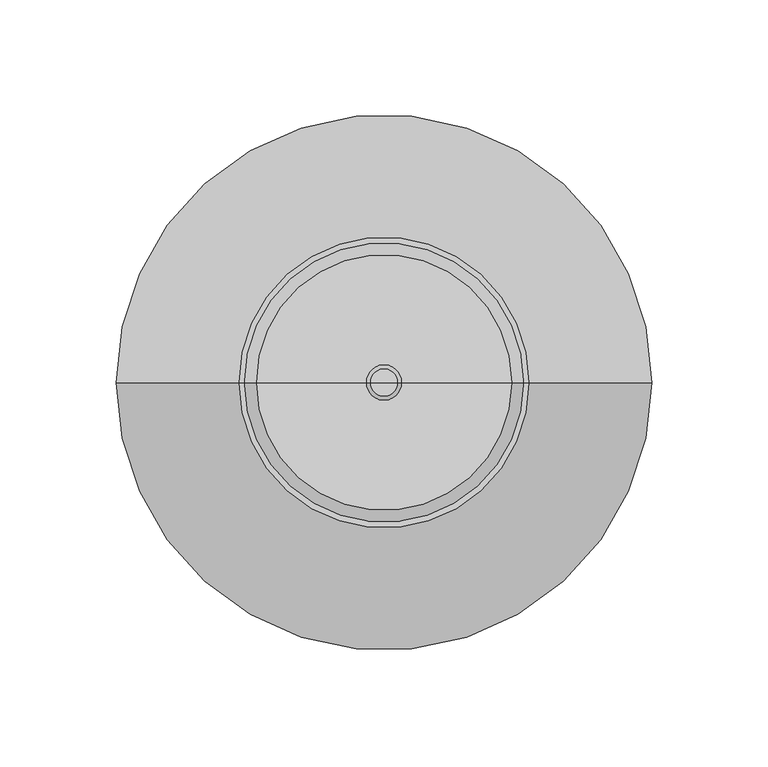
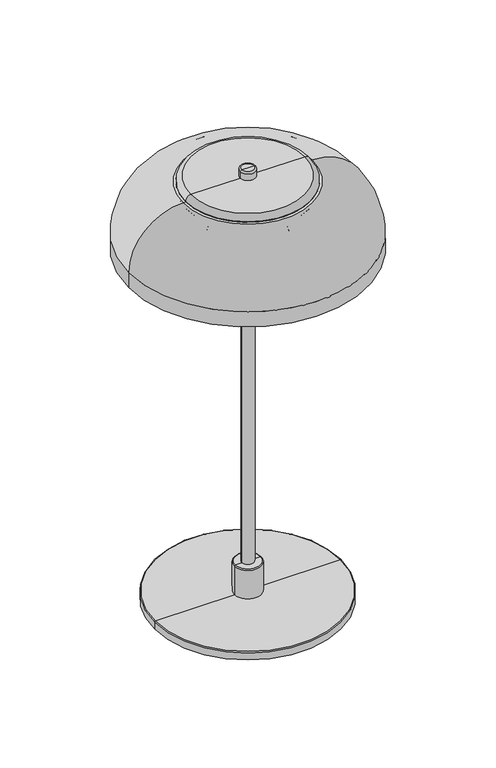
"""IFC4 building model written with IfcOpenShell, lengths in millimetres: light fixture geometry, Nuura - Blossi - Table : Nuura - Blossi - Table."""

from ifc_helpers import new_model, si_unit, point, frame, frame_2d, origin, origin_with_axes, place, context, project, spatial, polyline, circle_curve, ellipse_curve, trimmed, segment, composite_curve, outline, extrude, source, transform, mapped, element, save
from ifc_brep_helpers import plane_surface, cylinder_surface, revolved_surface, advanced_brep


def light_fixture_5867d3f8(model_context):
    return source(origin(), model_context, "Body", "SolidModel", [
        advanced_brep(
        [(-63.0, 0.0, 422.0), (63.0, 0.0, 422.0), (0.0, 0.0, 422.0), (-111.0, 0.0, 374.0), (111.0, 0.0, 374.0), (-111.0, 0.0, 358.3), (111.0, 0.0, 358.3), (-115.0, 0.0, 358.3), (115.0, 0.0, 358.3), (-115.0, 0.0, 373.5), (115.0, 0.0, 373.5), (-62.5, 0.0, 426.0), (62.5, 0.0, 426.0), (0.0, 0.0, 426.0)],
        [
            (0, 1, circle_curve(frame((0.0, 0.0, 422.0), z_axis=(0.0, 0.0, -1.0), x_axis=(1.0, 0.0, 0.0)), 63.0)),
            (1, 2),
            (2, 0),
            (1, 0, circle_curve(frame((0.0, 0.0, 422.0), z_axis=(0.0, 0.0, -1.0), x_axis=(1.0, 0.0, 0.0)), 63.0)),
            (3, 4, circle_curve(frame((0.0, 0.0, 374.0), z_axis=(0.0, 0.0, -1.0), x_axis=(1.0, 0.0, 0.0)), 111.0)),
            (4, 1, circle_curve(frame((63.0, 0.0, 374.0), z_axis=(0.0, -1.0, 0.0), x_axis=(1.0, 0.0, 0.0)), 48.0)),
            (0, 3, circle_curve(frame((-63.0, 0.0, 374.0), z_axis=(0.0, -1.0, 0.0), x_axis=(-1.0, 0.0, 0.0)), 48.0)),
            (4, 3, circle_curve(frame((0.0, 0.0, 374.0), z_axis=(0.0, 0.0, -1.0), x_axis=(1.0, 0.0, 0.0)), 111.0)),
            (5, 6, circle_curve(frame((0.0, 0.0, 358.3), z_axis=(0.0, 0.0, -1.0), x_axis=(1.0, 0.0, 0.0)), 111.0)),
            (6, 4),
            (3, 5),
            (6, 5, circle_curve(frame((0.0, 0.0, 358.3), z_axis=(0.0, 0.0, -1.0), x_axis=(1.0, 0.0, 0.0)), 111.0)),
            (7, 8, circle_curve(frame((0.0, 0.0, 358.3), z_axis=(0.0, 0.0, -1.0), x_axis=(1.0, 0.0, 0.0)), 115.0)),
            (8, 6),
            (5, 7),
            (8, 7, circle_curve(frame((0.0, 0.0, 358.3), z_axis=(0.0, 0.0, -1.0), x_axis=(1.0, 0.0, 0.0)), 115.0)),
            (9, 10, circle_curve(frame((0.0, 0.0, 373.5), z_axis=(0.0, 0.0, -1.0), x_axis=(1.0, 0.0, 0.0)), 115.0)),
            (10, 8),
            (7, 9),
            (10, 9, circle_curve(frame((0.0, 0.0, 373.5), z_axis=(0.0, 0.0, -1.0), x_axis=(1.0, 0.0, 0.0)), 115.0)),
            (11, 12, circle_curve(frame((0.0, 0.0, 426.0), z_axis=(0.0, 0.0, -1.0), x_axis=(1.0, 0.0, 0.0)), 62.5)),
            (12, 10, circle_curve(frame((62.5, 0.0, 373.5), z_axis=(0.0, 1.0, 0.0), x_axis=(1.0, 0.0, 0.0)), 52.5)),
            (9, 11, circle_curve(frame((-62.5, 0.0, 373.5), z_axis=(0.0, 1.0, 0.0), x_axis=(-1.0, 0.0, 0.0)), 52.5)),
            (12, 11, circle_curve(frame((0.0, 0.0, 426.0), z_axis=(0.0, 0.0, -1.0), x_axis=(1.0, 0.0, 0.0)), 62.5)),
            (13, 12),
            (11, 13),
        ],
        [
            plane_surface(frame((0.0, 0.0, 422.0), z_axis=(0.0, 0.0, -1.0), x_axis=(1.0, 0.0, 0.0))),
            revolved_surface(trimmed(ellipse_curve(frame((63.0, 0.0, 374.0), z_axis=(0.0, 1.0, 0.0), x_axis=(1.0, 0.0, 0.0)), 48.0, 48.0), [point((63.0, 0.0, 422.0))], [point((111.0, 0.0, 374.0))], True, "CARTESIAN"), (0.0, 0.0, 472.3834276), (0.0, 0.0, 1.0)),
            revolved_surface(polyline([(111.0, 0.0, 374.0), (111.0, 0.0, 358.3)]), (0.0, 0.0, 472.3834276), (0.0, 0.0, 1.0)),
            plane_surface(frame((0.0, 0.0, 358.3), z_axis=(0.0, 0.0, -1.0), x_axis=(1.0, 0.0, 0.0))),
            cylinder_surface(frame((0.0, 0.0, 472.3834276), z_axis=(0.0, 0.0, 1.0), x_axis=(1.0, 0.0, 0.0)), 115.0),
            revolved_surface(trimmed(ellipse_curve(frame((62.5, 0.0, 373.5), z_axis=(0.0, -1.0, 0.0), x_axis=(1.0, 0.0, 0.0)), 52.5, 52.5), [point((115.0, 0.0, 373.5))], [point((62.5, 0.0, 426.0))], True, "CARTESIAN"), (0.0, 0.0, 472.3834276), (0.0, 0.0, 1.0)),
            plane_surface(frame((0.0, 0.0, 426.0), z_axis=(0.0, 0.0, 1.0), x_axis=(1.0, 0.0, 0.0))),
        ],
        [
            (0, [[1, 2, 3]]),
            (0, [[4, -3, -2]]),
            (1, [[5, 6, -1, 7]]),
            (1, [[8, -7, -4, -6]]),
            (2, [[9, 10, -5, 11]]),
            (2, [[12, -11, -8, -10]]),
            (3, [[13, 14, -9, 15]]),
            (3, [[16, -15, -12, -14]]),
            (4, [[17, 18, -13, 19]]),
            (4, [[20, -19, -16, -18]]),
            (5, [[21, 22, -17, 23]]),
            (5, [[24, -23, -20, -22]]),
            (6, [[25, -21, 26]]),
            (6, [[-26, -24, -25]]),
        ],
    ),
        advanced_brep(
        [(-5.85, 0.0, 416.0), (5.85, 0.0, 416.0), (5.85, 0.0, 376.0), (-5.85, 0.0, 376.0), (0.0, 0.0, 416.0), (0.0, 0.0, 376.0)],
        [
            (0, 1, circle_curve(frame((0.0, 0.0, 416.0), z_axis=(0.0, 0.0, -1.0), x_axis=(1.0, 0.0, 0.0)), 5.85)),
            (1, 2),
            (2, 3, circle_curve(frame((0.0, 0.0, 376.0), z_axis=(0.0, 0.0, 1.0), x_axis=(1.0, 0.0, 0.0)), 5.85)),
            (3, 0),
            (1, 0, circle_curve(frame((0.0, 0.0, 416.0), z_axis=(0.0, 0.0, -1.0), x_axis=(1.0, 0.0, 0.0)), 5.85)),
            (3, 2, circle_curve(frame((0.0, 0.0, 376.0), z_axis=(0.0, 0.0, 1.0), x_axis=(1.0, 0.0, 0.0)), 5.85)),
            (4, 1),
            (0, 4),
            (2, 5),
            (5, 3),
        ],
        [
            cylinder_surface(frame((0.0, 0.0, -468.1232635), z_axis=(0.0, 0.0, 1.0), x_axis=(1.0, 0.0, 0.0)), 5.85),
            plane_surface(frame((0.0, 0.0, 416.0), z_axis=(0.0, 0.0, 1.0), x_axis=(1.0, 0.0, 0.0))),
            plane_surface(frame((0.0, 0.0, 376.0), z_axis=(0.0, 0.0, -1.0), x_axis=(1.0, 0.0, 0.0))),
        ],
        [
            (0, [[1, 2, 3, 4]]),
            (0, [[5, -4, 6, -2]]),
            (1, [[7, -1, 8]]),
            (1, [[-8, -5, -7]]),
            (2, [[-3, 9, 10]]),
            (2, [[-6, -10, -9]]),
        ],
    ),
        extrude(outline(composite_curve([segment(trimmed(circle_curve(frame_2d((69.9894645, 0.0)), 10.0), [point((69.9894645, 10.0))], [point((69.9894645, -10.0))], False, "CARTESIAN"), True, "CONTINUOUS"), segment(trimmed(circle_curve(frame_2d((69.9894645, 0.0)), 10.0), [point((69.9894645, -10.0))], [point((69.9894645, 10.0))], False, "CARTESIAN"), True, "CONTINUOUS")], self_intersect=False)), origin_with_axes(), (0.0, 0.0, 1.0), 2.0),
        extrude(outline(composite_curve([segment(trimmed(circle_curve(frame_2d((-34.9947323, -60.6126543)), 10.0), [point((-26.3344782, -65.6126543))], [point((-43.6549863, -55.6126543))], False, "CARTESIAN"), True, "CONTINUOUS"), segment(trimmed(circle_curve(frame_2d((-34.9947323, -60.6126543)), 10.0), [point((-43.6549863, -55.6126543))], [point((-26.3344782, -65.6126543))], False, "CARTESIAN"), True, "CONTINUOUS")], self_intersect=False)), origin_with_axes(), (0.0, 0.0, 1.0), 2.0),
        extrude(outline(composite_curve([segment(trimmed(circle_curve(frame_2d((-34.9947323, 60.6126543)), 10.0), [point((-43.6549863, 55.6126543))], [point((-26.3344782, 65.6126543))], False, "CARTESIAN"), True, "CONTINUOUS"), segment(trimmed(circle_curve(frame_2d((-34.9947323, 60.6126543)), 10.0), [point((-26.3344782, 65.6126543))], [point((-43.6549863, 55.6126543))], False, "CARTESIAN"), True, "CONTINUOUS")], self_intersect=False)), origin_with_axes(), (0.0, 0.0, 1.0), 2.0),
        advanced_brep(
        [(-90.0, 0.0, 9.0), (90.0, 0.0, 9.0), (90.0, 0.0, 2.0), (-90.0, 0.0, 2.0), (-13.0, 0.0, 10.0), (13.0, 0.0, 10.0), (89.0, 0.0, 10.0), (-89.0, 0.0, 10.0), (0.0, 0.0, 2.0), (-13.0, 0.0, 39.0), (13.0, 0.0, 39.0), (-5.85, 0.0, 40.0), (5.85, 0.0, 40.0), (12.0, 0.0, 40.0), (-12.0, 0.0, 40.0), (-5.85, 0.0, 367.3), (5.85, 0.0, 367.3), (-32.0, 0.0, 367.3), (32.0, 0.0, 367.3), (-35.0, 0.0, 370.3), (35.0, 0.0, 370.3), (-35.0, 0.0, 372.3), (35.0, 0.0, 372.3), (-32.0, 0.0, 375.3), (32.0, 0.0, 375.3), (0.0, 0.0, 375.3)],
        [
            (0, 1, circle_curve(frame((0.0, 0.0, 9.0), z_axis=(0.0, 0.0, -1.0), x_axis=(1.0, 0.0, 0.0)), 90.0)),
            (1, 2),
            (2, 3, circle_curve(frame((0.0, 0.0, 2.0), z_axis=(0.0, 0.0, 1.0), x_axis=(1.0, 0.0, 0.0)), 90.0)),
            (3, 0),
            (1, 0, circle_curve(frame((0.0, 0.0, 9.0), z_axis=(0.0, 0.0, -1.0), x_axis=(1.0, 0.0, 0.0)), 90.0)),
            (3, 2, circle_curve(frame((0.0, 0.0, 2.0), z_axis=(0.0, 0.0, 1.0), x_axis=(1.0, 0.0, 0.0)), 90.0)),
            (4, 5, circle_curve(frame((0.0, 0.0, 10.0), z_axis=(0.0, 0.0, -1.0), x_axis=(1.0, 0.0, 0.0)), 13.0)),
            (5, 6),
            (6, 7, circle_curve(frame((0.0, 0.0, 10.0), z_axis=(0.0, 0.0, 1.0), x_axis=(1.0, 0.0, 0.0)), 89.0)),
            (7, 4),
            (5, 4, circle_curve(frame((0.0, 0.0, 10.0), z_axis=(0.0, 0.0, -1.0), x_axis=(1.0, 0.0, 0.0)), 13.0)),
            (7, 6, circle_curve(frame((0.0, 0.0, 10.0), z_axis=(0.0, 0.0, 1.0), x_axis=(1.0, 0.0, 0.0)), 89.0)),
            (2, 8),
            (8, 3),
            (9, 10, circle_curve(frame((0.0, 0.0, 39.0), z_axis=(0.0, 0.0, -1.0), x_axis=(1.0, 0.0, 0.0)), 13.0)),
            (10, 5),
            (4, 9),
            (10, 9, circle_curve(frame((0.0, 0.0, 39.0), z_axis=(0.0, 0.0, -1.0), x_axis=(1.0, 0.0, 0.0)), 13.0)),
            (11, 12, circle_curve(frame((0.0, 0.0, 40.0), z_axis=(0.0, 0.0, -1.0), x_axis=(1.0, 0.0, 0.0)), 5.85)),
            (12, 13),
            (13, 14, circle_curve(frame((0.0, 0.0, 40.0), z_axis=(0.0, 0.0, 1.0), x_axis=(1.0, 0.0, 0.0)), 12.0)),
            (14, 11),
            (12, 11, circle_curve(frame((0.0, 0.0, 40.0), z_axis=(0.0, 0.0, -1.0), x_axis=(1.0, 0.0, 0.0)), 5.85)),
            (14, 13, circle_curve(frame((0.0, 0.0, 40.0), z_axis=(0.0, 0.0, 1.0), x_axis=(1.0, 0.0, 0.0)), 12.0)),
            (15, 16, circle_curve(frame((0.0, 0.0, 367.3), z_axis=(0.0, 0.0, -1.0), x_axis=(1.0, 0.0, 0.0)), 5.85)),
            (16, 12),
            (11, 15),
            (16, 15, circle_curve(frame((0.0, 0.0, 367.3), z_axis=(0.0, 0.0, -1.0), x_axis=(1.0, 0.0, 0.0)), 5.85)),
            (17, 18, circle_curve(frame((0.0, 0.0, 367.3), z_axis=(0.0, 0.0, -1.0), x_axis=(1.0, 0.0, 0.0)), 32.0)),
            (18, 16),
            (15, 17),
            (18, 17, circle_curve(frame((0.0, 0.0, 367.3), z_axis=(0.0, 0.0, -1.0), x_axis=(1.0, 0.0, 0.0)), 32.0)),
            (19, 20, circle_curve(frame((0.0, 0.0, 370.3), z_axis=(0.0, 0.0, -1.0), x_axis=(1.0, 0.0, 0.0)), 35.0)),
            (20, 18, circle_curve(frame((32.0, 0.0, 370.3), z_axis=(0.0, 1.0, 0.0), x_axis=(1.0, 0.0, 0.0)), 3.0)),
            (17, 19, circle_curve(frame((-32.0, 0.0, 370.3), z_axis=(0.0, 1.0, 0.0), x_axis=(-1.0, 0.0, 0.0)), 3.0)),
            (20, 19, circle_curve(frame((0.0, 0.0, 370.3), z_axis=(0.0, 0.0, -1.0), x_axis=(1.0, 0.0, 0.0)), 35.0)),
            (21, 22, circle_curve(frame((0.0, 0.0, 372.3), z_axis=(0.0, 0.0, -1.0), x_axis=(1.0, 0.0, 0.0)), 35.0)),
            (22, 20),
            (19, 21),
            (22, 21, circle_curve(frame((0.0, 0.0, 372.3), z_axis=(0.0, 0.0, -1.0), x_axis=(1.0, 0.0, 0.0)), 35.0)),
            (23, 24, circle_curve(frame((0.0, 0.0, 375.3), z_axis=(0.0, 0.0, -1.0), x_axis=(1.0, 0.0, 0.0)), 32.0)),
            (24, 22, circle_curve(frame((32.0, 0.0, 372.3), z_axis=(0.0, 1.0, 0.0), x_axis=(1.0, 0.0, 0.0)), 3.0)),
            (21, 23, circle_curve(frame((-32.0, 0.0, 372.3), z_axis=(0.0, 1.0, 0.0), x_axis=(-1.0, 0.0, 0.0)), 3.0)),
            (24, 23, circle_curve(frame((0.0, 0.0, 375.3), z_axis=(0.0, 0.0, -1.0), x_axis=(1.0, 0.0, 0.0)), 32.0)),
            (25, 24),
            (23, 25),
            (6, 1, circle_curve(frame((89.0, 0.0, 9.0), z_axis=(0.0, 1.0, 0.0), x_axis=(1.0, 0.0, 0.0)), 1.0)),
            (0, 7, circle_curve(frame((-89.0, 0.0, 9.0), z_axis=(0.0, 1.0, 0.0), x_axis=(-1.0, 0.0, 0.0)), 1.0)),
            (13, 10, circle_curve(frame((12.0, 0.0, 39.0), z_axis=(0.0, 1.0, 0.0), x_axis=(1.0, 0.0, 0.0)), 1.0)),
            (9, 14, circle_curve(frame((-12.0, 0.0, 39.0), z_axis=(0.0, 1.0, 0.0), x_axis=(-1.0, 0.0, 0.0)), 1.0)),
        ],
        [
            cylinder_surface(frame((0.0, 0.0, -50.0), z_axis=(0.0, 0.0, 1.0), x_axis=(1.0, 0.0, 0.0)), 90.0),
            plane_surface(frame((0.0, 0.0, 10.0), z_axis=(0.0, 0.0, 1.0), x_axis=(1.0, 0.0, 0.0))),
            plane_surface(frame((0.0, 0.0, 2.0), z_axis=(0.0, 0.0, -1.0), x_axis=(1.0, 0.0, 0.0))),
            cylinder_surface(frame((0.0, 0.0, -50.0), z_axis=(0.0, 0.0, 1.0), x_axis=(1.0, 0.0, 0.0)), 13.0),
            plane_surface(frame((0.0, 0.0, 40.0), z_axis=(0.0, 0.0, 1.0), x_axis=(1.0, 0.0, 0.0))),
            cylinder_surface(frame((0.0, 0.0, -50.0), z_axis=(0.0, 0.0, 1.0), x_axis=(1.0, 0.0, 0.0)), 5.85),
            plane_surface(frame((0.0, 0.0, 367.3), z_axis=(0.0, 0.0, -1.0), x_axis=(1.0, 0.0, 0.0))),
            revolved_surface(trimmed(ellipse_curve(frame((32.0, 0.0, 370.3), z_axis=(0.0, -1.0, 0.0), x_axis=(1.0, 0.0, 0.0)), 3.0, 3.0), [point((32.0, 0.0, 367.3))], [point((35.0, 0.0, 370.3))], True, "CARTESIAN"), (0.0, 0.0, -50.0), (0.0, 0.0, 1.0)),
            cylinder_surface(frame((0.0, 0.0, -50.0), z_axis=(0.0, 0.0, 1.0), x_axis=(1.0, 0.0, 0.0)), 35.0),
            revolved_surface(trimmed(ellipse_curve(frame((32.0, 0.0, 372.3), z_axis=(0.0, -1.0, 0.0), x_axis=(1.0, 0.0, 0.0)), 3.0, 3.0), [point((35.0, 0.0, 372.3))], [point((32.0, 0.0, 375.3))], True, "CARTESIAN"), (0.0, 0.0, -50.0), (0.0, 0.0, 1.0)),
            plane_surface(frame((0.0, 0.0, 375.3), z_axis=(0.0, 0.0, 1.0), x_axis=(1.0, 0.0, 0.0))),
            revolved_surface(trimmed(ellipse_curve(frame((89.0, 0.0, 9.0), z_axis=(0.0, -1.0, 0.0), x_axis=(1.0, 0.0, 0.0)), 1.0, 1.0), [point((90.0, 0.0, 9.0))], [point((89.0, 0.0, 10.0))], True, "CARTESIAN"), (0.0, 0.0, -50.0), (0.0, 0.0, 1.0)),
            revolved_surface(trimmed(ellipse_curve(frame((12.0, 0.0, 39.0), z_axis=(0.0, -1.0, 0.0), x_axis=(1.0, 0.0, 0.0)), 1.0, 1.0), [point((13.0, 0.0, 39.0))], [point((12.0, 0.0, 40.0))], True, "CARTESIAN"), (0.0, 0.0, -50.0), (0.0, 0.0, 1.0)),
        ],
        [
            (0, [[1, 2, 3, 4]]),
            (0, [[5, -4, 6, -2]]),
            (1, [[7, 8, 9, 10]]),
            (1, [[11, -10, 12, -8]]),
            (2, [[-3, 13, 14]]),
            (2, [[-6, -14, -13]]),
            (3, [[15, 16, -7, 17]]),
            (3, [[18, -17, -11, -16]]),
            (4, [[19, 20, 21, 22]]),
            (4, [[23, -22, 24, -20]]),
            (5, [[25, 26, -19, 27]]),
            (5, [[28, -27, -23, -26]]),
            (6, [[29, 30, -25, 31]]),
            (6, [[32, -31, -28, -30]]),
            (7, [[33, 34, -29, 35]]),
            (7, [[36, -35, -32, -34]]),
            (8, [[37, 38, -33, 39]]),
            (8, [[40, -39, -36, -38]]),
            (9, [[41, 42, -37, 43]]),
            (9, [[44, -43, -40, -42]]),
            (10, [[45, -41, 46]]),
            (10, [[-46, -44, -45]]),
            (11, [[-9, 47, -1, 48]]),
            (11, [[-12, -48, -5, -47]]),
            (12, [[-21, 49, -15, 50]]),
            (12, [[-24, -50, -18, -49]]),
        ],
    ),
        advanced_brep(
        [(-60.0, 0.0, 421.0), (60.0, 0.0, 421.0), (55.0, 0.0, 416.0), (-55.0, 0.0, 416.0), (0.0, 0.0, 416.0), (-60.0, 0.0, 422.0), (60.0, 0.0, 422.0), (0.0, 0.0, 422.0)],
        [
            (0, 1, circle_curve(frame((0.0, 0.0, 421.0), z_axis=(0.0, 0.0, -1.0), x_axis=(1.0, 0.0, 0.0)), 60.0)),
            (1, 2, circle_curve(frame((55.0, 0.0, 421.0), z_axis=(0.0, 1.0, 0.0), x_axis=(1.0, 0.0, 0.0)), 5.0)),
            (2, 3, circle_curve(frame((0.0, 0.0, 416.0), z_axis=(0.0, 0.0, 1.0), x_axis=(1.0, 0.0, 0.0)), 55.0)),
            (3, 0, circle_curve(frame((-55.0, 0.0, 421.0), z_axis=(0.0, 1.0, 0.0), x_axis=(-1.0, 0.0, 0.0)), 5.0)),
            (1, 0, circle_curve(frame((0.0, 0.0, 421.0), z_axis=(0.0, 0.0, -1.0), x_axis=(1.0, 0.0, 0.0)), 60.0)),
            (3, 2, circle_curve(frame((0.0, 0.0, 416.0), z_axis=(0.0, 0.0, 1.0), x_axis=(1.0, 0.0, 0.0)), 55.0)),
            (2, 4),
            (4, 3),
            (5, 6, circle_curve(frame((0.0, 0.0, 422.0), z_axis=(0.0, 0.0, -1.0), x_axis=(1.0, 0.0, 0.0)), 60.0)),
            (6, 1),
            (0, 5),
            (6, 5, circle_curve(frame((0.0, 0.0, 422.0), z_axis=(0.0, 0.0, -1.0), x_axis=(1.0, 0.0, 0.0)), 60.0)),
            (7, 6),
            (5, 7),
        ],
        [
            revolved_surface(trimmed(ellipse_curve(frame((55.0, 0.0, 421.0), z_axis=(0.0, -1.0, 0.0), x_axis=(1.0, 0.0, 0.0)), 5.0, 5.0), [point((55.0, 0.0, 416.0))], [point((60.0, 0.0, 421.0))], True, "CARTESIAN"), (0.0, 0.0, -50.0), (0.0, 0.0, 1.0)),
            plane_surface(frame((0.0, 0.0, 416.0), z_axis=(0.0, 0.0, -1.0), x_axis=(1.0, 0.0, 0.0))),
            cylinder_surface(frame((0.0, 0.0, -50.0), z_axis=(0.0, 0.0, 1.0), x_axis=(1.0, 0.0, 0.0)), 60.0),
            plane_surface(frame((0.0, 0.0, 422.0), z_axis=(0.0, 0.0, 1.0), x_axis=(1.0, 0.0, 0.0))),
        ],
        [
            (0, [[1, 2, 3, 4]]),
            (0, [[5, -4, 6, -2]]),
            (1, [[-3, 7, 8]]),
            (1, [[-6, -8, -7]]),
            (2, [[9, 10, -1, 11]]),
            (2, [[12, -11, -5, -10]]),
            (3, [[13, -9, 14]]),
            (3, [[-14, -12, -13]]),
        ],
    ),
        advanced_brep(
        [(-55.0, 0.0, 432.0), (55.0, 0.0, 432.0), (60.0, 0.0, 427.0), (-60.0, 0.0, 427.0), (-7.5, 0.0, 432.0), (7.5, 0.0, 432.0), (-7.5, 0.0, 438.4675236), (7.5, 0.0, 438.4675236), (-5.9675236, 0.0, 440.0), (5.9675236, 0.0, 440.0), (0.0, 0.0, 440.0), (-60.0, 0.0, 426.0), (60.0, 0.0, 426.0), (0.0, 0.0, 426.0)],
        [
            (0, 1, circle_curve(frame((0.0, 0.0, 432.0), z_axis=(0.0, 0.0, -1.0), x_axis=(1.0, 0.0, 0.0)), 55.0)),
            (1, 2, circle_curve(frame((55.0, 0.0, 427.0), z_axis=(0.0, 1.0, 0.0), x_axis=(1.0, 0.0, 0.0)), 5.0)),
            (2, 3, circle_curve(frame((0.0, 0.0, 427.0), z_axis=(0.0, 0.0, 1.0), x_axis=(1.0, 0.0, 0.0)), 60.0)),
            (3, 0, circle_curve(frame((-55.0, 0.0, 427.0), z_axis=(0.0, 1.0, 0.0), x_axis=(-1.0, 0.0, 0.0)), 5.0)),
            (1, 0, circle_curve(frame((0.0, 0.0, 432.0), z_axis=(0.0, 0.0, -1.0), x_axis=(1.0, 0.0, 0.0)), 55.0)),
            (3, 2, circle_curve(frame((0.0, 0.0, 427.0), z_axis=(0.0, 0.0, 1.0), x_axis=(1.0, 0.0, 0.0)), 60.0)),
            (4, 5, circle_curve(frame((0.0, 0.0, 432.0), z_axis=(0.0, 0.0, -1.0), x_axis=(1.0, 0.0, 0.0)), 7.5)),
            (5, 1),
            (0, 4),
            (5, 4, circle_curve(frame((0.0, 0.0, 432.0), z_axis=(0.0, 0.0, -1.0), x_axis=(1.0, 0.0, 0.0)), 7.5)),
            (6, 7, circle_curve(frame((0.0, 0.0, 438.4675236), z_axis=(0.0, 0.0, -1.0), x_axis=(1.0, 0.0, 0.0)), 7.5)),
            (7, 5),
            (4, 6),
            (7, 6, circle_curve(frame((0.0, 0.0, 438.4675236), z_axis=(0.0, 0.0, -1.0), x_axis=(1.0, 0.0, 0.0)), 7.5)),
            (8, 9, circle_curve(frame((0.0, 0.0, 440.0), z_axis=(0.0, 0.0, -1.0), x_axis=(1.0, 0.0, 0.0)), 5.9675236)),
            (9, 7, circle_curve(frame((5.9675236, 0.0, 438.4675236), z_axis=(0.0, 1.0, 0.0), x_axis=(1.0, 0.0, 0.0)), 1.5324764)),
            (6, 8, circle_curve(frame((-5.9675236, 0.0, 438.4675236), z_axis=(0.0, 1.0, 0.0), x_axis=(-1.0, 0.0, 0.0)), 1.5324764)),
            (9, 8, circle_curve(frame((0.0, 0.0, 440.0), z_axis=(0.0, 0.0, -1.0), x_axis=(1.0, 0.0, 0.0)), 5.9675236)),
            (10, 9),
            (8, 10),
            (11, 12, circle_curve(frame((0.0, 0.0, 426.0), z_axis=(0.0, 0.0, -1.0), x_axis=(1.0, 0.0, 0.0)), 60.0)),
            (12, 13),
            (13, 11),
            (12, 11, circle_curve(frame((0.0, 0.0, 426.0), z_axis=(0.0, 0.0, -1.0), x_axis=(1.0, 0.0, 0.0)), 60.0)),
            (2, 12),
            (11, 3),
        ],
        [
            revolved_surface(trimmed(ellipse_curve(frame((55.0, 0.0, 427.0), z_axis=(0.0, -1.0, 0.0), x_axis=(1.0, 0.0, 0.0)), 5.0, 5.0), [point((60.0, 0.0, 427.0))], [point((55.0, 0.0, 432.0))], True, "CARTESIAN"), (0.0, 0.0, -50.0), (0.0, 0.0, 1.0)),
            plane_surface(frame((0.0, 0.0, 432.0), z_axis=(0.0, 0.0, 1.0), x_axis=(1.0, 0.0, 0.0))),
            cylinder_surface(frame((0.0, 0.0, -50.0), z_axis=(0.0, 0.0, 1.0), x_axis=(1.0, 0.0, 0.0)), 7.5),
            revolved_surface(trimmed(ellipse_curve(frame((5.9675236, 0.0, 438.4675236), z_axis=(0.0, -1.0, 0.0), x_axis=(1.0, 0.0, 0.0)), 1.5324764, 1.5324764), [point((7.5, 0.0, 438.4675236))], [point((5.9675236, 0.0, 440.0))], True, "CARTESIAN"), (0.0, 0.0, -50.0), (0.0, 0.0, 1.0)),
            plane_surface(frame((0.0, 0.0, 440.0), z_axis=(0.0, 0.0, 1.0), x_axis=(1.0, 0.0, 0.0))),
            plane_surface(frame((0.0, 0.0, 426.0), z_axis=(0.0, 0.0, -1.0), x_axis=(1.0, 0.0, 0.0))),
            cylinder_surface(frame((0.0, 0.0, -50.0), z_axis=(0.0, 0.0, 1.0), x_axis=(1.0, 0.0, 0.0)), 60.0),
        ],
        [
            (0, [[1, 2, 3, 4]]),
            (0, [[5, -4, 6, -2]]),
            (1, [[7, 8, -1, 9]]),
            (1, [[10, -9, -5, -8]]),
            (2, [[11, 12, -7, 13]]),
            (2, [[14, -13, -10, -12]]),
            (3, [[15, 16, -11, 17]]),
            (3, [[18, -17, -14, -16]]),
            (4, [[19, -15, 20]]),
            (4, [[-20, -18, -19]]),
            (5, [[21, 22, 23]]),
            (5, [[24, -23, -22]]),
            (6, [[-3, 25, -21, 26]]),
            (6, [[-6, -26, -24, -25]]),
        ],
    ),
    ])


if __name__ == "__main__":
    model = new_model("IFC4")
    model_context = context("Model", 3, world=origin())
    ifc_project = project(units=[si_unit("LENGTHUNIT", "METRE", prefix="MILLI")], contexts=[model_context])
    site = spatial("IfcSite", under=ifc_project)
    building = spatial("IfcBuilding", under=site)
    placement = place(None, origin())
    light_fixture_shape = light_fixture_5867d3f8(model_context)
    element("IfcLightFixture", 1, ObjectType="Nuura - Blossi - Table : Nuura - Blossi - Table", at=placement, inside=building, context=model_context, shape_type="MappedRepresentation", body=[
        mapped(light_fixture_shape, transform((0.0, 0.0, 0.0), x_axis=(1.0, 0.0, 0.0), y_axis=(0.0, 1.0, 0.0), z_axis=(0.0, 0.0, 1.0))),
    ])
    save(model, "model.ifc")
